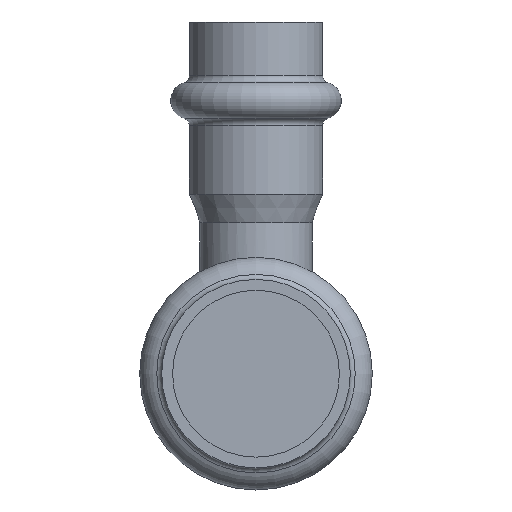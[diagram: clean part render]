
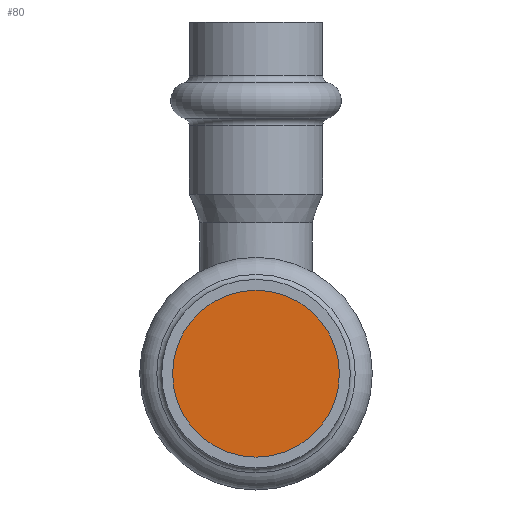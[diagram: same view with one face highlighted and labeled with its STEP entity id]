
A CAD part, front view. The second image highlights one B-rep face of the part: STEP entity #80.
In plain terms, the highlighted planar face has unit normal (0, -1, 0).
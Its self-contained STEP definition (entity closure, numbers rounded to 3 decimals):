
#80=ADVANCED_FACE('',(#325),#327,.T.);
#325=FACE_BOUND('',#326,.T.);
#326=EDGE_LOOP('',(#395));
#327=PLANE('',#328);
#328=AXIS2_PLACEMENT_3D('',#329,#330,#331);
#329=CARTESIAN_POINT('',(0.,-41.029,0.));
#330=DIRECTION('',(0.,-1.,0.));
#331=DIRECTION('',(0.,0.,-1.));
#395=ORIENTED_EDGE('',*,*,#424,.T.);
#424=EDGE_CURVE('',#480,#480,#481,.F.);
#480=VERTEX_POINT('',#861);
#481=CIRCLE('',#862,11.15);
#861=CARTESIAN_POINT('',(0.,-41.029,11.15));
#862=AXIS2_PLACEMENT_3D('',#863,#864,#865);
#863=CARTESIAN_POINT('',(0.,-41.029,0.));
#864=DIRECTION('',(0.,1.,0.));
#865=DIRECTION('',(0.,0.,1.));
